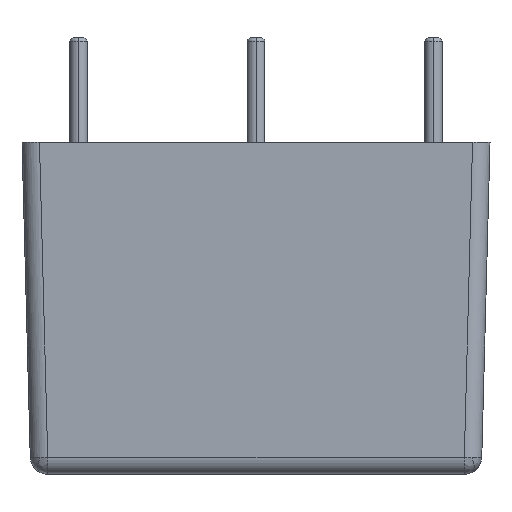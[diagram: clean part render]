
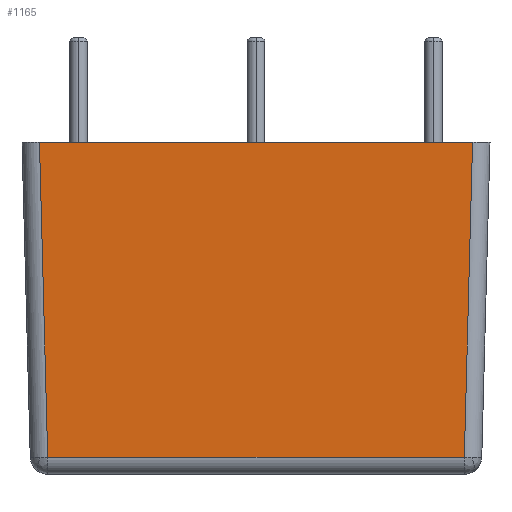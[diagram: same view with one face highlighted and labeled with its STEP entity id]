
A CAD part, left-side view. The second image highlights one B-rep face of the part: STEP entity #1165.
In plain terms, the highlighted planar face has unit normal (-1, 0, -0.026).
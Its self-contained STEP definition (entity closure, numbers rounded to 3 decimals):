
#5 = EDGE_CURVE ( 'NONE', #965, #422, #379, .T. ) ;
#57 = LINE ( 'NONE', #2531, #2606 ) ;
#64 = EDGE_CURVE ( 'NONE', #422, #2334, #1538, .T. ) ;
#78 = EDGE_CURVE ( 'NONE', #2334, #1110, #2259, .T. ) ;
#379 = LINE ( 'NONE', #449, #1037 ) ;
#414 = VECTOR ( 'NONE', #1580, 1000. ) ;
#422 = VERTEX_POINT ( 'NONE', #2011 ) ;
#449 = CARTESIAN_POINT ( 'NONE',  ( -29.398, 12.715, 9.5 ) ) ;
#554 = CARTESIAN_POINT ( 'NONE',  ( -28.926, -11.614, -8.526 ) ) ;
#579 = AXIS2_PLACEMENT_3D ( 'NONE', #796, #733, #886 ) ;
#733 = DIRECTION ( 'NONE',  ( -1., 0., -0.026 ) ) ;
#773 = PLANE ( 'NONE',  #579 ) ;
#796 = CARTESIAN_POINT ( 'NONE',  ( -29.398, 13.714, 9.5 ) ) ;
#886 = DIRECTION ( 'NONE',  ( -0.026, 0., 1. ) ) ;
#965 = VERTEX_POINT ( 'NONE', #2002 ) ;
#1021 = CARTESIAN_POINT ( 'NONE',  ( -29.398, -12.086, 9.5 ) ) ;
#1037 = VECTOR ( 'NONE', #2607, 1000. ) ;
#1110 = VERTEX_POINT ( 'NONE', #1021 ) ;
#1165 = ADVANCED_FACE ( 'NONE', ( #1397 ), #773, .T. ) ;
#1327 = EDGE_LOOP ( 'NONE', ( #2540, #2113, #1673, #2465 ) ) ;
#1397 = FACE_OUTER_BOUND ( 'NONE', #1327, .T. ) ;
#1409 = CARTESIAN_POINT ( 'NONE',  ( -28.926, 13.714, -8.526 ) ) ;
#1538 = LINE ( 'NONE', #1409, #2176 ) ;
#1580 = DIRECTION ( 'NONE',  ( -0.026, -0.026, 0.999 ) ) ;
#1673 = ORIENTED_EDGE ( 'NONE', *, *, #5, .T. ) ;
#1831 = EDGE_CURVE ( 'NONE', #965, #1110, #57, .T. ) ;
#1856 = DIRECTION ( 'NONE',  ( 0., -1., 0. ) ) ;
#1945 = CARTESIAN_POINT ( 'NONE',  ( -28.926, -11.614, -8.526 ) ) ;
#2002 = CARTESIAN_POINT ( 'NONE',  ( -29.398, 12.715, 9.5 ) ) ;
#2011 = CARTESIAN_POINT ( 'NONE',  ( -28.926, 12.243, -8.526 ) ) ;
#2113 = ORIENTED_EDGE ( 'NONE', *, *, #1831, .F. ) ;
#2154 = DIRECTION ( 'NONE',  ( 0., -1., 0. ) ) ;
#2176 = VECTOR ( 'NONE', #1856, 1000. ) ;
#2259 = LINE ( 'NONE', #1945, #414 ) ;
#2334 = VERTEX_POINT ( 'NONE', #554 ) ;
#2465 = ORIENTED_EDGE ( 'NONE', *, *, #64, .T. ) ;
#2531 = CARTESIAN_POINT ( 'NONE',  ( -29.398, 0.314, 9.5 ) ) ;
#2540 = ORIENTED_EDGE ( 'NONE', *, *, #78, .T. ) ;
#2606 = VECTOR ( 'NONE', #2154, 1000. ) ;
#2607 = DIRECTION ( 'NONE',  ( 0.026, -0.026, -0.999 ) ) ;
